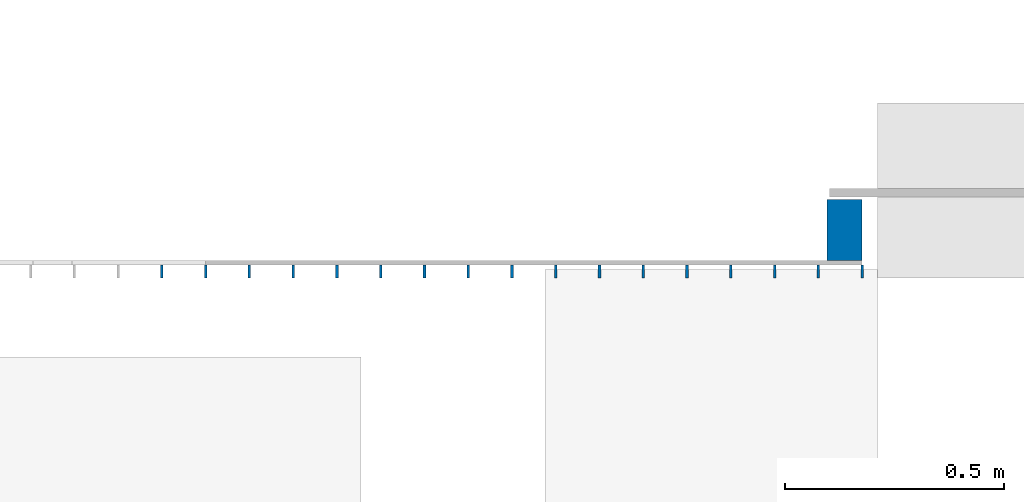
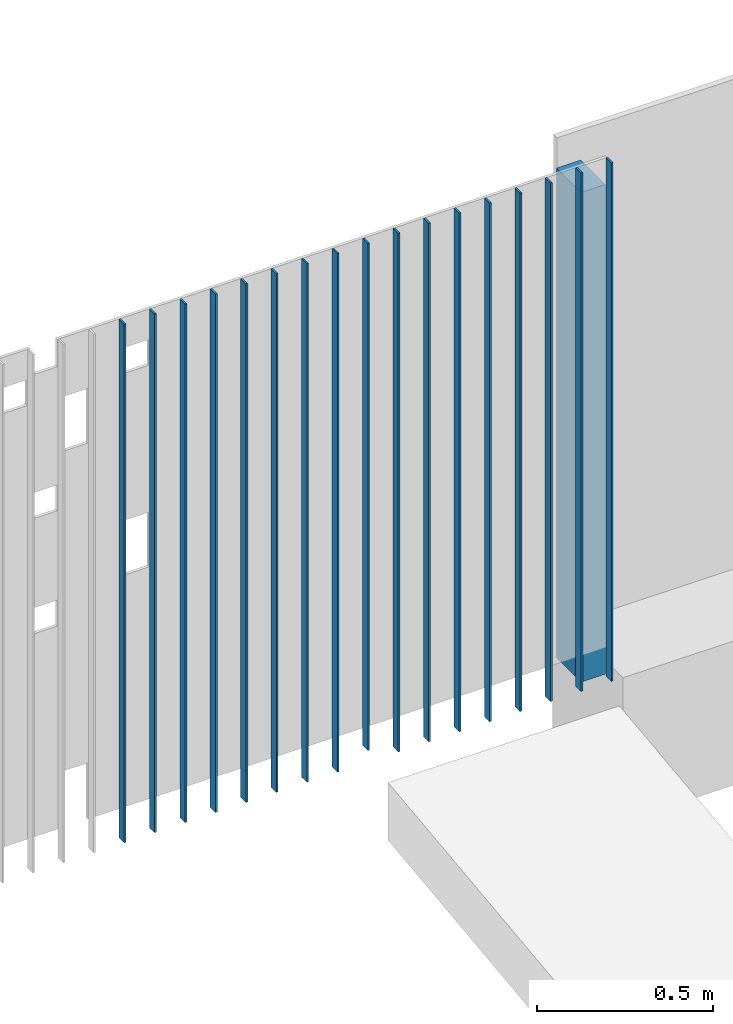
# One storey, part 2 of 51: 18 columns.
"""IFC2X3 building model written with IfcOpenShell, lengths in metres."""

from ifc_helpers import new_model, entity, si_unit, converted_unit, derived_unit, direction, frame, origin, origin_2d_with_axis, place, context, subcontext, project, spatial, rectangle, extrude, source, transform, mapped, material, material_list, type_object, type_shapes, element, save


model = new_model("IFC2X3")

# Units and contexts
model_context = context("Model", 3, precision=1e-05, world=origin(), true_north=direction((6.123031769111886e-17, 1.0)))
body_context = subcontext(model_context, "Body", "Model", "MODEL_VIEW")
ifc_project = project(units=[si_unit("LENGTHUNIT", "METRE"), si_unit("AREAUNIT", "SQUARE_METRE"), si_unit("VOLUMEUNIT", "CUBIC_METRE"), converted_unit("PLANEANGLEUNIT", "DEGREE", entity("IfcRatioMeasure", 0.017453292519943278), si_unit("PLANEANGLEUNIT", "RADIAN"), dimensions=[0, 0, 0, 0, 0, 0, 0]), si_unit("MASSUNIT", "GRAM", prefix="KILO"), derived_unit("MASSDENSITYUNIT", [(si_unit("MASSUNIT", "GRAM", prefix="KILO"), 1), (si_unit("LENGTHUNIT", "METRE"), -3)]), derived_unit("MOMENTOFINERTIAUNIT", [(si_unit("LENGTHUNIT", "METRE"), 4)]), si_unit("TIMEUNIT", "SECOND"), si_unit("FREQUENCYUNIT", "HERTZ"), si_unit("THERMODYNAMICTEMPERATUREUNIT", "DEGREE_CELSIUS"), derived_unit("THERMALTRANSMITTANCEUNIT", [(si_unit("MASSUNIT", "GRAM", prefix="KILO"), 1), (si_unit("THERMODYNAMICTEMPERATUREUNIT", "KELVIN"), -1), (si_unit("TIMEUNIT", "SECOND"), -3)]), derived_unit("THERMALCONDUCTANCEUNIT", [(si_unit("MASSUNIT", "GRAM", prefix="KILO"), 1), (si_unit("LENGTHUNIT", "METRE"), 1), (si_unit("THERMODYNAMICTEMPERATUREUNIT", "KELVIN"), -1), (si_unit("TIMEUNIT", "SECOND"), -3)]), derived_unit("VOLUMETRICFLOWRATEUNIT", [(si_unit("LENGTHUNIT", "METRE"), 3), (si_unit("TIMEUNIT", "SECOND"), -1)]), derived_unit("MASSFLOWRATEUNIT", [(si_unit("MASSUNIT", "GRAM", prefix="KILO"), 1), (si_unit("TIMEUNIT", "SECOND"), -1)]), derived_unit("ROTATIONALFREQUENCYUNIT", [(si_unit("TIMEUNIT", "SECOND"), -1)]), si_unit("ELECTRICCURRENTUNIT", "AMPERE"), si_unit("ELECTRICVOLTAGEUNIT", "VOLT"), si_unit("POWERUNIT", "WATT"), si_unit("FORCEUNIT", "NEWTON", prefix="KILO"), si_unit("ILLUMINANCEUNIT", "LUX"), si_unit("LUMINOUSFLUXUNIT", "LUMEN"), si_unit("LUMINOUSINTENSITYUNIT", "CANDELA"), derived_unit("USERDEFINED", [(si_unit("MASSUNIT", "GRAM", prefix="KILO"), -1), (si_unit("LENGTHUNIT", "METRE"), -2), (si_unit("TIMEUNIT", "SECOND"), 3), (si_unit("LUMINOUSFLUXUNIT", "LUMEN"), 1)]), derived_unit("USERDEFINED", [(si_unit("MASSUNIT", "GRAM", prefix="KILO"), 1), (si_unit("LENGTHUNIT", "METRE"), 3), (si_unit("TIMEUNIT", "SECOND"), -3), (si_unit("ELECTRICCURRENTUNIT", "AMPERE"), -2)]), derived_unit("USERDEFINED", [(si_unit("LENGTHUNIT", "METRE"), 2), (si_unit("TIMEUNIT", "SECOND"), -2)]), derived_unit("SOUNDPOWERUNIT", [(si_unit("MASSUNIT", "GRAM", prefix="KILO"), 1), (si_unit("LENGTHUNIT", "METRE"), 2), (si_unit("TIMEUNIT", "SECOND"), -3)]), derived_unit("SOUNDPRESSUREUNIT", [(si_unit("MASSUNIT", "GRAM", prefix="KILO"), 1), (si_unit("LENGTHUNIT", "METRE"), -1), (si_unit("TIMEUNIT", "SECOND"), -2)]), derived_unit("LINEARVELOCITYUNIT", [(si_unit("LENGTHUNIT", "METRE"), 1), (si_unit("TIMEUNIT", "SECOND"), -1)]), si_unit("PRESSUREUNIT", "PASCAL"), derived_unit("USERDEFINED", [(si_unit("LENGTHUNIT", "METRE"), -2), (si_unit("MASSUNIT", "GRAM", prefix="KILO"), 1), (si_unit("TIMEUNIT", "SECOND"), -2)]), derived_unit("LINEARFORCEUNIT", [(si_unit("MASSUNIT", "GRAM", prefix="KILO"), 1), (si_unit("LENGTHUNIT", "METRE"), 1), (si_unit("TIMEUNIT", "SECOND"), -2), (si_unit("LENGTHUNIT", "METRE"), -1)]), derived_unit("PLANARFORCEUNIT", [(si_unit("MASSUNIT", "GRAM", prefix="KILO"), 1), (si_unit("LENGTHUNIT", "METRE"), 1), (si_unit("TIMEUNIT", "SECOND"), -2), (si_unit("LENGTHUNIT", "METRE"), -2)]), derived_unit("SPECIFICHEATCAPACITYUNIT", [(si_unit("LENGTHUNIT", "METRE"), 2), (si_unit("TIMEUNIT", "SECOND"), -2), (si_unit("THERMODYNAMICTEMPERATUREUNIT", "KELVIN"), -1)]), derived_unit("VAPORPERMEABILITYUNIT", [(si_unit("TIMEUNIT", "SECOND"), 1), (si_unit("LENGTHUNIT", "METRE"), -1)]), derived_unit("DYNAMICVISCOSITYUNIT", [(si_unit("MASSUNIT", "GRAM", prefix="KILO"), 1), (si_unit("LENGTHUNIT", "METRE"), -1), (si_unit("TIMEUNIT", "SECOND"), -1)]), derived_unit("THERMALEXPANSIONCOEFFICIENTUNIT", [(si_unit("THERMODYNAMICTEMPERATUREUNIT", "KELVIN"), -1)])], contexts=[model_context])

# Site, building, storey
site_placement = place(None, origin())
site = spatial("IfcSite", under=ifc_project, at=site_placement, Name="Default", CompositionType="ELEMENT")
building_placement = place(site_placement, origin())
building = spatial("IfcBuilding", under=site, at=building_placement, CompositionType="ELEMENT")
storey_placement = place(building_placement, frame((0.0, 0.0, 3.06)))
storey = spatial("IfcBuildingStorey", under=building, at=storey_placement, Name="ÉTAGE", CompositionType="ELEMENT", Elevation=3.06)

# Columns
ifc_material_1 = material(Name="Peinture - Gris foncé")
column_type_1 = type_object("IfcColumnType", Name="Pot-005 441838:Pot-005 441838", PredefinedType="COLUMN", material=ifc_material_1)
shared_shape_1 = source(origin(), body_context, "Body", "SweptSolid", [
    extrude(rectangle(XDim=0.03, YDim=0.006, at=origin_2d_with_axis()), frame((0.0, 0.0, 3.06), z_axis=(0.0, 0.0, 1.0), x_axis=(0.0, -1.0, 0.0)), (0.0, 0.0, 1.0), 1.7999999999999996),
])
type_shapes(column_type_1, [shared_shape_1])
for number, where, name in (
    (1, (134.86575228, 10.652209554, -3.06), "Pot-005"),
    (2, (134.76575228, 10.652209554, -3.06), "Pot-005"),
    (3, (134.66575228, 10.652209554, -3.06), "Pot-005"),
    (4, (134.56575228, 10.652209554, -3.06), "Pot-005"),
    (5, (134.46575228, 10.652209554, -3.06), "Pot-005"),
    (6, (134.36575228, 10.652209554, -3.06), "Pot-005"),
    (7, (134.26575228, 10.652209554, -3.06), "Pot-005"),
    (8, (134.16575228, 10.652209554, -3.06), "Pot-005"),
    (9, (133.86575228, 10.652209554, -3.06), "Pot-005"),
    (10, (133.76575228, 10.652209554, -3.06), "Pot-005"),
    (11, (133.66575228, 10.652209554, -3.06), "Pot-005"),
    (12, (133.56575228, 10.652209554, -3.06), "Pot-005"),
    (13, (133.46575228, 10.652209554, -3.06), "Pot-005"),
    (14, (133.36575228, 10.652209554, -3.06), "Pot-005"),
    (15, (133.26575228, 10.652209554, -3.06), "Pot-005"),
    (16, (133.96575228, 10.652209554, -3.06), "Pot-005"),
):
    element("IfcColumn", number, at=place(storey_placement, frame(where)), inside=storey, type_object=column_type_1, material=ifc_material_1, Name=name, ObjectType="Pot-005 441838:Pot-005 441838", context=body_context, shape_type="MappedRepresentation", body=[
        mapped(shared_shape_1, transform((0.0, 0.0, 0.0), scale=1.0)),
    ])
column_type_2 = type_object("IfcColumnType", Name="Pot-005 441838:Pot-005 441838", PredefinedType="COLUMN", material=ifc_material_1)
shared_shape_2 = source(origin(), body_context, "Body", "SweptSolid", [
    extrude(rectangle(XDim=0.03, YDim=0.006, at=origin_2d_with_axis()), frame((0.0, 0.0, 3.0999999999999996), z_axis=(0.0, 0.0, 1.0), x_axis=(0.0, -1.0, 0.0)), (0.0, 0.0, 1.0), 1.76),
])
type_shapes(column_type_2, [shared_shape_2])
column_1_placement = place(storey_placement, frame((134.06575228, 10.652209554, -3.06)))
element("IfcColumn", 17, at=column_1_placement, inside=storey, type_object=column_type_2, material=ifc_material_1, Name="Pot-005", ObjectType="Pot-005 441838:Pot-005 441838", context=body_context, shape_type="MappedRepresentation", body=[
    mapped(shared_shape_2, transform((0.0, 0.0, 0.0), scale=1.0)),
])
ifc_material_2 = material(Name="<Unnamed>")
ifc_material_list = material_list([ifc_material_2, ifc_material_1])
column_type_3 = type_object("IfcColumnType", Name="Pot-005 459659:Pot-005 459659", PredefinedType="COLUMN", material=ifc_material_list)
shared_shape_3 = source(origin(), body_context, "Body", "SweptSolid", [
    extrude(rectangle(XDim=0.140001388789, YDim=0.08, at=origin_2d_with_axis()), frame((0.0, 0.0, 0.0), z_axis=(0.0, 0.0, 1.0), x_axis=(0.0, -1.0, 0.0)), (0.0, 0.0, 1.0), 1.7),
])
type_shapes(column_type_3, [shared_shape_3])
column_2_placement = place(storey_placement, frame((134.825752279, 10.747210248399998, 0.0)))
element("IfcColumn", 18, at=column_2_placement, inside=storey, type_object=column_type_3, material=ifc_material_1, Name="Pot-005", ObjectType="Pot-005 459659:Pot-005 459659", context=body_context, shape_type="MappedRepresentation", body=[
    mapped(shared_shape_3, transform((0.0, 0.0, 0.0), scale=1.0)),
])

save(model, "model.ifc")
